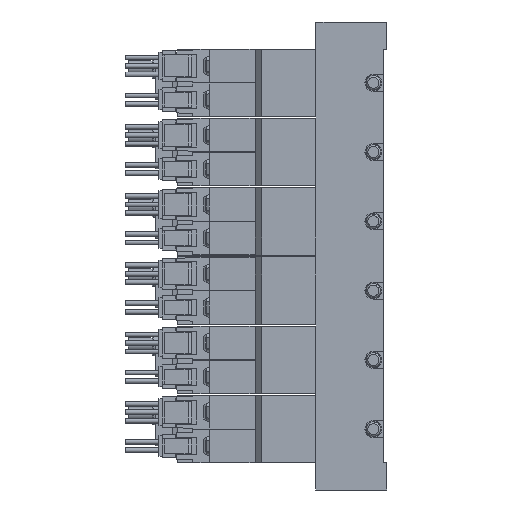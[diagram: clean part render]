
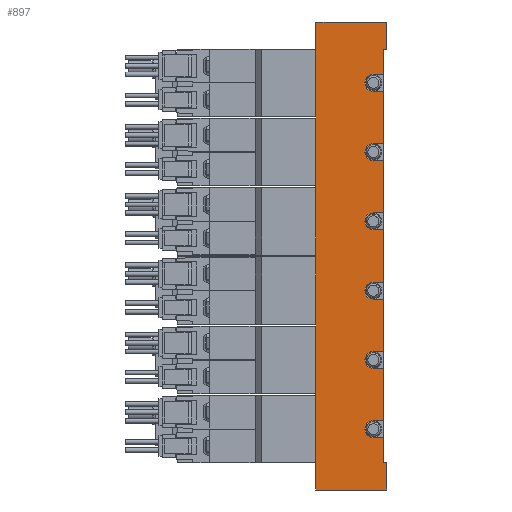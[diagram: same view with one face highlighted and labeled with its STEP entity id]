
A CAD part, left-side view. The second image highlights one B-rep face of the part: STEP entity #897.
In plain terms, the highlighted planar face has unit normal (-1, 0, 0) as drawn and (1, 0, 0) by its records, which use the part's own axes.
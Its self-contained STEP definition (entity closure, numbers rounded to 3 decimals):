
#897=ADVANCED_FACE('',(#1861),#1862,.F.);
#1861=FACE_OUTER_BOUND('',#3019,.T.);
#1862=PLANE('',#3020);
#3019=EDGE_LOOP('',(#6470,#6471,#6472,#6473,#6474,#6475,#6476,#6477,#6478,#6479,#6480,#6481,#6482,#6483,#6484,#6485,#6486,#6487,#6488,#6489,#6490,#6491,#6492,#6493,#6494,#6495,#6496,#6497,#6498,#6499,#6500,#6501));
#3020=AXIS2_PLACEMENT_3D('',#6502,#6503,#6504);
#6470=ORIENTED_EDGE('',*,*,#8199,.T.);
#6471=ORIENTED_EDGE('',*,*,#8179,.T.);
#6472=ORIENTED_EDGE('',*,*,#8200,.F.);
#6473=ORIENTED_EDGE('',*,*,#8201,.F.);
#6474=ORIENTED_EDGE('',*,*,#8202,.T.);
#6475=ORIENTED_EDGE('',*,*,#8191,.T.);
#6476=ORIENTED_EDGE('',*,*,#8203,.T.);
#6477=ORIENTED_EDGE('',*,*,#8204,.F.);
#6478=ORIENTED_EDGE('',*,*,#8205,.F.);
#6479=ORIENTED_EDGE('',*,*,#8206,.F.);
#6480=ORIENTED_EDGE('',*,*,#8207,.T.);
#6481=ORIENTED_EDGE('',*,*,#8208,.F.);
#6482=ORIENTED_EDGE('',*,*,#8209,.F.);
#6483=ORIENTED_EDGE('',*,*,#8210,.F.);
#6484=ORIENTED_EDGE('',*,*,#8211,.T.);
#6485=ORIENTED_EDGE('',*,*,#8212,.F.);
#6486=ORIENTED_EDGE('',*,*,#8213,.F.);
#6487=ORIENTED_EDGE('',*,*,#8214,.F.);
#6488=ORIENTED_EDGE('',*,*,#8215,.T.);
#6489=ORIENTED_EDGE('',*,*,#8216,.F.);
#6490=ORIENTED_EDGE('',*,*,#8217,.F.);
#6491=ORIENTED_EDGE('',*,*,#8218,.F.);
#6492=ORIENTED_EDGE('',*,*,#8219,.T.);
#6493=ORIENTED_EDGE('',*,*,#8220,.F.);
#6494=ORIENTED_EDGE('',*,*,#8221,.F.);
#6495=ORIENTED_EDGE('',*,*,#8222,.F.);
#6496=ORIENTED_EDGE('',*,*,#8223,.T.);
#6497=ORIENTED_EDGE('',*,*,#8224,.F.);
#6498=ORIENTED_EDGE('',*,*,#8225,.F.);
#6499=ORIENTED_EDGE('',*,*,#8226,.F.);
#6500=ORIENTED_EDGE('',*,*,#8227,.T.);
#6501=ORIENTED_EDGE('',*,*,#8228,.T.);
#6502=CARTESIAN_POINT('',(17.5,1.0,69.25));
#6503=DIRECTION('',(-1.0,0.0,0.0));
#6504=DIRECTION('',(0.0,0.0,1.0));
#8179=EDGE_CURVE('',#10043,#10044,#10045,.T.);
#8191=EDGE_CURVE('',#10068,#10065,#10069,.T.);
#8199=EDGE_CURVE('',#10083,#10043,#10084,.T.);
#8200=EDGE_CURVE('',#10085,#10044,#10086,.T.);
#8201=EDGE_CURVE('',#10087,#10085,#10088,.T.);
#8202=EDGE_CURVE('',#10087,#10068,#10089,.T.);
#8203=EDGE_CURVE('',#10065,#10090,#10091,.T.);
#8204=EDGE_CURVE('',#10092,#10090,#10093,.T.);
#8205=EDGE_CURVE('',#10094,#10092,#10095,.T.);
#8206=EDGE_CURVE('',#10096,#10094,#10097,.T.);
#8207=EDGE_CURVE('',#10096,#10098,#10099,.T.);
#8208=EDGE_CURVE('',#10100,#10098,#10101,.T.);
#8209=EDGE_CURVE('',#10102,#10100,#10103,.T.);
#8210=EDGE_CURVE('',#10104,#10102,#10105,.T.);
#8211=EDGE_CURVE('',#10104,#10106,#10107,.T.);
#8212=EDGE_CURVE('',#10108,#10106,#10109,.T.);
#8213=EDGE_CURVE('',#10110,#10108,#10111,.T.);
#8214=EDGE_CURVE('',#10112,#10110,#10113,.T.);
#8215=EDGE_CURVE('',#10112,#10114,#10115,.T.);
#8216=EDGE_CURVE('',#10116,#10114,#10117,.T.);
#8217=EDGE_CURVE('',#10118,#10116,#10119,.T.);
#8218=EDGE_CURVE('',#10120,#10118,#10121,.T.);
#8219=EDGE_CURVE('',#10120,#10122,#10123,.T.);
#8220=EDGE_CURVE('',#10124,#10122,#10125,.T.);
#8221=EDGE_CURVE('',#10126,#10124,#10127,.T.);
#8222=EDGE_CURVE('',#10128,#10126,#10129,.T.);
#8223=EDGE_CURVE('',#10128,#10130,#10131,.T.);
#8224=EDGE_CURVE('',#10132,#10130,#10133,.T.);
#8225=EDGE_CURVE('',#10134,#10132,#10135,.T.);
#8226=EDGE_CURVE('',#10136,#10134,#10137,.T.);
#8227=EDGE_CURVE('',#10136,#10138,#10139,.T.);
#8228=EDGE_CURVE('',#10138,#10083,#10140,.T.);
#10043=VERTEX_POINT('',#13087);
#10044=VERTEX_POINT('',#13088);
#10045=LINE('',#13089,#13090);
#10065=VERTEX_POINT('',#13115);
#10068=VERTEX_POINT('',#13119);
#10069=LINE('',#13120,#13121);
#10083=VERTEX_POINT('',#13139);
#10084=LINE('',#13140,#13141);
#10085=VERTEX_POINT('',#13142);
#10086=LINE('',#13143,#13144);
#10087=VERTEX_POINT('',#13145);
#10088=LINE('',#13146,#13147);
#10089=LINE('',#13148,#13149);
#10090=VERTEX_POINT('',#13150);
#10091=LINE('',#13151,#13152);
#10092=VERTEX_POINT('',#13153);
#10093=LINE('',#13154,#13155);
#10094=VERTEX_POINT('',#13156);
#10095=CIRCLE('',#13157,2.5);
#10096=VERTEX_POINT('',#13158);
#10097=LINE('',#13159,#13160);
#10098=VERTEX_POINT('',#13161);
#10099=LINE('',#13162,#13163);
#10100=VERTEX_POINT('',#13164);
#10101=LINE('',#13165,#13166);
#10102=VERTEX_POINT('',#13167);
#10103=CIRCLE('',#13168,2.5);
#10104=VERTEX_POINT('',#13169);
#10105=LINE('',#13170,#13171);
#10106=VERTEX_POINT('',#13172);
#10107=LINE('',#13173,#13174);
#10108=VERTEX_POINT('',#13175);
#10109=LINE('',#13176,#13177);
#10110=VERTEX_POINT('',#13178);
#10111=CIRCLE('',#13179,2.5);
#10112=VERTEX_POINT('',#13180);
#10113=LINE('',#13181,#13182);
#10114=VERTEX_POINT('',#13183);
#10115=LINE('',#13184,#13185);
#10116=VERTEX_POINT('',#13186);
#10117=LINE('',#13187,#13188);
#10118=VERTEX_POINT('',#13189);
#10119=CIRCLE('',#13190,2.5);
#10120=VERTEX_POINT('',#13191);
#10121=LINE('',#13192,#13193);
#10122=VERTEX_POINT('',#13194);
#10123=LINE('',#13195,#13196);
#10124=VERTEX_POINT('',#13197);
#10125=LINE('',#13198,#13199);
#10126=VERTEX_POINT('',#13200);
#10127=CIRCLE('',#13201,2.5);
#10128=VERTEX_POINT('',#13202);
#10129=LINE('',#13203,#13204);
#10130=VERTEX_POINT('',#13205);
#10131=LINE('',#13206,#13207);
#10132=VERTEX_POINT('',#13208);
#10133=LINE('',#13209,#13210);
#10134=VERTEX_POINT('',#13211);
#10135=CIRCLE('',#13212,2.5);
#10136=VERTEX_POINT('',#13213);
#10137=LINE('',#13214,#13215);
#10138=VERTEX_POINT('',#13216);
#10139=LINE('',#13217,#13218);
#10140=LINE('',#13219,#13220);
#13087=CARTESIAN_POINT('',(17.5,0.0,-69.25));
#13088=CARTESIAN_POINT('',(17.5,21.0,-69.25));
#13089=CARTESIAN_POINT('',(17.5,1.0,-69.25));
#13090=VECTOR('',#15007,1.0);
#13115=CARTESIAN_POINT('',(17.5,1.0,61.25));
#13119=CARTESIAN_POINT('',(17.5,0.0,61.25));
#13120=CARTESIAN_POINT('',(17.5,0.0,61.25));
#13121=VECTOR('',#15029,1.0);
#13139=CARTESIAN_POINT('',(17.5,0.0,-61.25));
#13140=CARTESIAN_POINT('',(17.5,0.0,-61.25));
#13141=VECTOR('',#15043,1.0);
#13142=CARTESIAN_POINT('',(17.5,21.0,69.25));
#13143=CARTESIAN_POINT('',(17.5,21.0,69.25));
#13144=VECTOR('',#15044,1.0);
#13145=CARTESIAN_POINT('',(17.5,0.0,69.25));
#13146=CARTESIAN_POINT('',(17.5,1.0,69.25));
#13147=VECTOR('',#15045,1.0);
#13148=CARTESIAN_POINT('',(17.5,0.0,69.25));
#13149=VECTOR('',#15046,1.0);
#13150=CARTESIAN_POINT('',(17.5,1.0,53.75));
#13151=CARTESIAN_POINT('',(17.5,1.0,69.25));
#13152=VECTOR('',#15047,1.0);
#13153=CARTESIAN_POINT('',(17.5,4.0,53.75));
#13154=CARTESIAN_POINT('',(17.5,1.0,53.75));
#13155=VECTOR('',#15048,1.0);
#13156=CARTESIAN_POINT('',(17.5,4.0,48.75));
#13157=AXIS2_PLACEMENT_3D('',#15049,#15050,#15051);
#13158=CARTESIAN_POINT('',(17.5,1.0,48.75));
#13159=CARTESIAN_POINT('',(17.5,1.0,48.75));
#13160=VECTOR('',#15052,1.0);
#13161=CARTESIAN_POINT('',(17.5,1.0,33.25));
#13162=CARTESIAN_POINT('',(17.5,1.0,69.25));
#13163=VECTOR('',#15053,1.0);
#13164=CARTESIAN_POINT('',(17.5,4.0,33.25));
#13165=CARTESIAN_POINT('',(17.5,1.0,33.25));
#13166=VECTOR('',#15054,1.0);
#13167=CARTESIAN_POINT('',(17.5,4.0,28.25));
#13168=AXIS2_PLACEMENT_3D('',#15055,#15056,#15057);
#13169=CARTESIAN_POINT('',(17.5,1.0,28.25));
#13170=CARTESIAN_POINT('',(17.5,1.0,28.25));
#13171=VECTOR('',#15058,1.0);
#13172=CARTESIAN_POINT('',(17.5,1.0,12.75));
#13173=CARTESIAN_POINT('',(17.5,1.0,69.25));
#13174=VECTOR('',#15059,1.0);
#13175=CARTESIAN_POINT('',(17.5,4.0,12.75));
#13176=CARTESIAN_POINT('',(17.5,1.0,12.75));
#13177=VECTOR('',#15060,1.0);
#13178=CARTESIAN_POINT('',(17.5,4.0,7.75));
#13179=AXIS2_PLACEMENT_3D('',#15061,#15062,#15063);
#13180=CARTESIAN_POINT('',(17.5,1.0,7.75));
#13181=CARTESIAN_POINT('',(17.5,1.0,7.75));
#13182=VECTOR('',#15064,1.0);
#13183=CARTESIAN_POINT('',(17.5,1.0,-7.75));
#13184=CARTESIAN_POINT('',(17.5,1.0,69.25));
#13185=VECTOR('',#15065,1.0);
#13186=CARTESIAN_POINT('',(17.5,4.0,-7.75));
#13187=CARTESIAN_POINT('',(17.5,1.0,-7.75));
#13188=VECTOR('',#15066,1.0);
#13189=CARTESIAN_POINT('',(17.5,4.0,-12.75));
#13190=AXIS2_PLACEMENT_3D('',#15067,#15068,#15069);
#13191=CARTESIAN_POINT('',(17.5,1.0,-12.75));
#13192=CARTESIAN_POINT('',(17.5,1.0,-12.75));
#13193=VECTOR('',#15070,1.0);
#13194=CARTESIAN_POINT('',(17.5,1.0,-28.25));
#13195=CARTESIAN_POINT('',(17.5,1.0,69.25));
#13196=VECTOR('',#15071,1.0);
#13197=CARTESIAN_POINT('',(17.5,4.0,-28.25));
#13198=CARTESIAN_POINT('',(17.5,1.0,-28.25));
#13199=VECTOR('',#15072,1.0);
#13200=CARTESIAN_POINT('',(17.5,4.0,-33.25));
#13201=AXIS2_PLACEMENT_3D('',#15073,#15074,#15075);
#13202=CARTESIAN_POINT('',(17.5,1.0,-33.25));
#13203=CARTESIAN_POINT('',(17.5,1.0,-33.25));
#13204=VECTOR('',#15076,1.0);
#13205=CARTESIAN_POINT('',(17.5,1.0,-48.75));
#13206=CARTESIAN_POINT('',(17.5,1.0,69.25));
#13207=VECTOR('',#15077,1.0);
#13208=CARTESIAN_POINT('',(17.5,4.0,-48.75));
#13209=CARTESIAN_POINT('',(17.5,1.0,-48.75));
#13210=VECTOR('',#15078,1.0);
#13211=CARTESIAN_POINT('',(17.5,4.0,-53.75));
#13212=AXIS2_PLACEMENT_3D('',#15079,#15080,#15081);
#13213=CARTESIAN_POINT('',(17.5,1.0,-53.75));
#13214=CARTESIAN_POINT('',(17.5,1.0,-53.75));
#13215=VECTOR('',#15082,1.0);
#13216=CARTESIAN_POINT('',(17.5,1.0,-61.25));
#13217=CARTESIAN_POINT('',(17.5,1.0,69.25));
#13218=VECTOR('',#15083,1.0);
#13219=CARTESIAN_POINT('',(17.5,4.0,-61.25));
#13220=VECTOR('',#15084,1.0);
#15007=DIRECTION('',(0.0,1.0,0.0));
#15029=DIRECTION('',(0.0,1.0,0.0));
#15043=DIRECTION('',(0.0,0.0,-1.0));
#15044=DIRECTION('',(0.0,0.0,-1.0));
#15045=DIRECTION('',(0.0,1.0,0.0));
#15046=DIRECTION('',(0.0,0.0,-1.0));
#15047=DIRECTION('',(0.0,0.0,-1.0));
#15048=DIRECTION('',(0.0,-1.0,0.0));
#15049=CARTESIAN_POINT('',(17.5,4.0,51.25));
#15050=DIRECTION('',(1.0,0.0,-0.0));
#15051=DIRECTION('',(0.0,0.0,1.0));
#15052=DIRECTION('',(0.0,1.0,0.0));
#15053=DIRECTION('',(0.0,0.0,-1.0));
#15054=DIRECTION('',(0.0,-1.0,0.0));
#15055=CARTESIAN_POINT('',(17.5,4.0,30.75));
#15056=DIRECTION('',(1.0,0.0,-0.0));
#15057=DIRECTION('',(0.0,0.0,1.0));
#15058=DIRECTION('',(0.0,1.0,0.0));
#15059=DIRECTION('',(0.0,0.0,-1.0));
#15060=DIRECTION('',(0.0,-1.0,0.0));
#15061=CARTESIAN_POINT('',(17.5,4.0,10.25));
#15062=DIRECTION('',(1.0,0.0,-0.0));
#15063=DIRECTION('',(0.0,0.0,1.0));
#15064=DIRECTION('',(0.0,1.0,0.0));
#15065=DIRECTION('',(0.0,0.0,-1.0));
#15066=DIRECTION('',(0.0,-1.0,0.0));
#15067=CARTESIAN_POINT('',(17.5,4.0,-10.25));
#15068=DIRECTION('',(1.0,0.0,-0.0));
#15069=DIRECTION('',(0.0,0.0,1.0));
#15070=DIRECTION('',(0.0,1.0,0.0));
#15071=DIRECTION('',(0.0,0.0,-1.0));
#15072=DIRECTION('',(0.0,-1.0,0.0));
#15073=CARTESIAN_POINT('',(17.5,4.0,-30.75));
#15074=DIRECTION('',(1.0,0.0,-0.0));
#15075=DIRECTION('',(0.0,0.0,1.0));
#15076=DIRECTION('',(0.0,1.0,0.0));
#15077=DIRECTION('',(0.0,0.0,-1.0));
#15078=DIRECTION('',(0.0,-1.0,0.0));
#15079=CARTESIAN_POINT('',(17.5,4.0,-51.25));
#15080=DIRECTION('',(1.0,0.0,-0.0));
#15081=DIRECTION('',(0.0,0.0,1.0));
#15082=DIRECTION('',(0.0,1.0,0.0));
#15083=DIRECTION('',(0.0,0.0,-1.0));
#15084=DIRECTION('',(0.0,-1.0,0.0));
